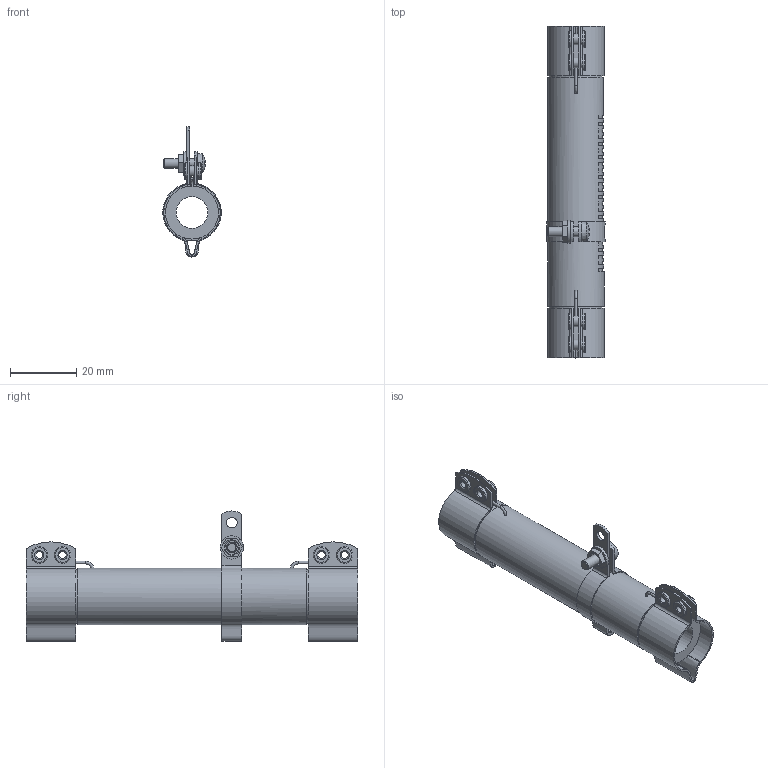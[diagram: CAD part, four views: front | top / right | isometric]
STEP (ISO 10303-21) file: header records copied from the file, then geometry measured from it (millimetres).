
FILE_DESCRIPTION(/* description */ (''),/* implementation_level */ '2;1');
FILE_NAME(/* name */ 'C:\_Vault\Dati\CATALOGO\RC-RS\RC-RS R TF\RSR TF 50.stp',/* time_stamp */ '2014-03-21T09:00:35+01:00',/* author */ ('stefano'),/* organization */ (''),/* preprocessor_version */ 'ST-DEVELOPER v15.2',/* originating_system */ 'Autodesk Inventor 2014',/* authorisation */ '');
FILE_SCHEMA (('AUTOMOTIVE_DESIGN { 1 0 10303 214 3 1 1 }'));
Length unit declared in the file: millimetre
Products named in the file (1): RSR TF 50
Bounding box: 17.59 x 100 x 39.18 mm (x, y, z)
Volume: 15004 mm3; surface area: 12027.1 mm2
Topology: 1 solids, 5 shells, 328 faces, 877 edges, 575 vertices
Faces by surface type: plane 187, cylinder 91, torus 19, cone 18, bspline 12, sphere 1
Full cylindrical faces by diameter (mm): 0.4 x2, 0.8 x4, 2.2 x4, 2.75 x1, 3 x1, 3.2 x11, 4.134 x1, 5 x8, 7 x1, 9.5 x1, 16 x2, 17 x1
Entity records: 10860 total; most frequent: CARTESIAN_POINT 2450, DIRECTION 1696, ORIENTED_EDGE 1592, EDGE_CURVE 796, AXIS2_PLACEMENT_3D 644, VERTEX_POINT 558, EDGE_LOOP 438, LINE 408
